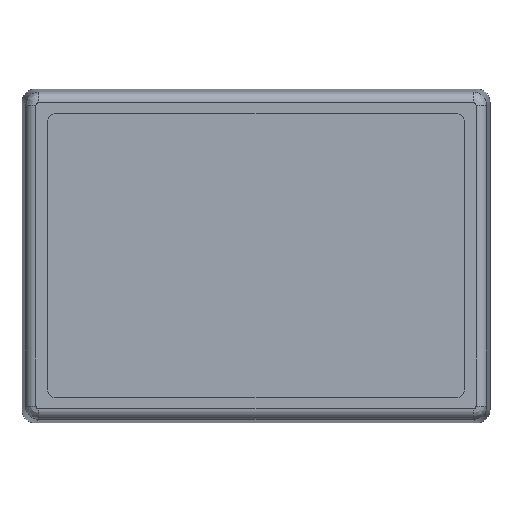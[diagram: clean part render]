
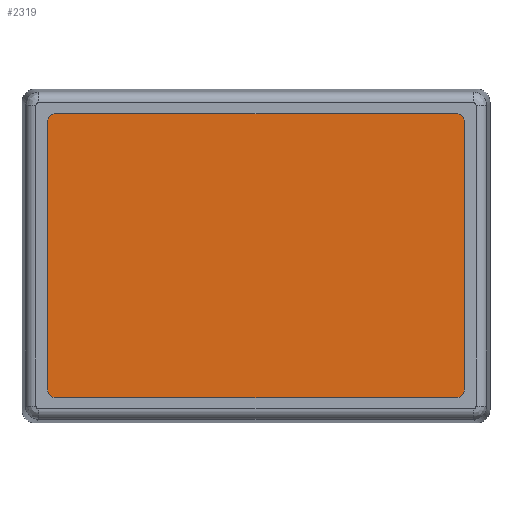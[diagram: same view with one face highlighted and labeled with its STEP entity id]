
A CAD part, top view. The second image highlights one B-rep face of the part: STEP entity #2319.
In plain terms, the highlighted planar face has unit normal (0, 0, 1).
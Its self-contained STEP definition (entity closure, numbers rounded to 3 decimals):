
#109=PLANE($,#2484);
#203=LINE($,#3566,#435);
#206=LINE($,#3574,#438);
#209=LINE($,#3582,#441);
#211=LINE($,#3588,#443);
#435=VECTOR($,#2767,51.);
#438=VECTOR($,#2776,76.2);
#441=VECTOR($,#2785,51.);
#443=VECTOR($,#2793,76.2);
#703=FACE_OUTER_BOUND($,#837,.T.);
#837=EDGE_LOOP($,(#1732,#1733,#1734,#1735,#1736,#1737,#1738,#1739));
#1035=CIRCLE($,#2473,1.5);
#1036=CIRCLE($,#2476,1.5);
#1037=CIRCLE($,#2479,1.5);
#1038=CIRCLE($,#2482,1.5);
#1115=VERTEX_POINT($,#3558);
#1116=VERTEX_POINT($,#3559);
#1117=VERTEX_POINT($,#3564);
#1118=VERTEX_POINT($,#3568);
#1119=VERTEX_POINT($,#3569);
#1120=VERTEX_POINT($,#3576);
#1121=VERTEX_POINT($,#3577);
#1122=VERTEX_POINT($,#3584);
#1350=EDGE_CURVE($,#1115,#1116,#1035,.T.);
#1354=EDGE_CURVE($,#1116,#1117,#203,.T.);
#1355=EDGE_CURVE($,#1118,#1119,#1036,.T.);
#1358=EDGE_CURVE($,#1119,#1115,#206,.T.);
#1359=EDGE_CURVE($,#1120,#1121,#1037,.T.);
#1362=EDGE_CURVE($,#1121,#1118,#209,.T.);
#1363=EDGE_CURVE($,#1117,#1122,#1038,.T.);
#1365=EDGE_CURVE($,#1122,#1120,#211,.T.);
#1732=ORIENTED_EDGE($,*,*,#1350,.T.);
#1733=ORIENTED_EDGE($,*,*,#1354,.T.);
#1734=ORIENTED_EDGE($,*,*,#1363,.T.);
#1735=ORIENTED_EDGE($,*,*,#1365,.T.);
#1736=ORIENTED_EDGE($,*,*,#1359,.T.);
#1737=ORIENTED_EDGE($,*,*,#1362,.T.);
#1738=ORIENTED_EDGE($,*,*,#1355,.T.);
#1739=ORIENTED_EDGE($,*,*,#1358,.T.);
#2319=ADVANCED_FACE($,(#703),#109,.T.);
#2473=AXIS2_PLACEMENT_3D($,#3560,#2760,#2761);
#2476=AXIS2_PLACEMENT_3D($,#3570,#2770,#2771);
#2479=AXIS2_PLACEMENT_3D($,#3578,#2779,#2780);
#2482=AXIS2_PLACEMENT_3D($,#3585,#2788,#2789);
#2484=AXIS2_PLACEMENT_3D($,#3589,#2794,#2795);
#2760=DIRECTION('center_axis',(0.,0.,
1.));
#2761=DIRECTION('ref_axis',(0.707,-0.707,0.));
#2767=DIRECTION($,(0.,1.,0.));
#2770=DIRECTION('center_axis',(0.,0.,
1.));
#2771=DIRECTION('ref_axis',(-0.707,-0.707,0.));
#2776=DIRECTION($,(1.,0.,0.));
#2779=DIRECTION('center_axis',(0.,0.,
1.));
#2780=DIRECTION('ref_axis',(-0.707,0.707,0.));
#2785=DIRECTION($,(0.,-1.,0.));
#2788=DIRECTION('center_axis',(0.,0.,
1.));
#2789=DIRECTION('ref_axis',(0.707,0.707,0.));
#2793=DIRECTION($,(-1.,0.,0.));
#2794=DIRECTION('center_axis',(0.,0.,
1.));
#2795=DIRECTION('ref_axis',(1.,0.,0.));
#3558=CARTESIAN_POINT('',(82.6,4.75,26.7));
#3559=CARTESIAN_POINT('',(84.1,6.25,26.7));
#3560=CARTESIAN_POINT('Origin',(82.6,6.25,26.7));
#3564=CARTESIAN_POINT('',(84.1,57.25,26.7));
#3566=CARTESIAN_POINT($,(84.1,58.75,26.7));
#3568=CARTESIAN_POINT('',(4.9,6.25,26.7));
#3569=CARTESIAN_POINT('',(6.4,4.75,26.7));
#3570=CARTESIAN_POINT('Origin',(6.4,6.25,26.7));
#3574=CARTESIAN_POINT($,(84.1,4.75,26.7));
#3576=CARTESIAN_POINT('',(6.4,58.75,26.7));
#3577=CARTESIAN_POINT('',(4.9,57.25,26.7));
#3578=CARTESIAN_POINT('Origin',(6.4,57.25,26.7));
#3582=CARTESIAN_POINT($,(4.9,4.75,26.7));
#3584=CARTESIAN_POINT('',(82.6,58.75,26.7));
#3585=CARTESIAN_POINT('Origin',(82.6,57.25,26.7));
#3588=CARTESIAN_POINT($,(4.9,58.75,26.7));
#3589=CARTESIAN_POINT('Origin',(44.5,31.75,26.7));
